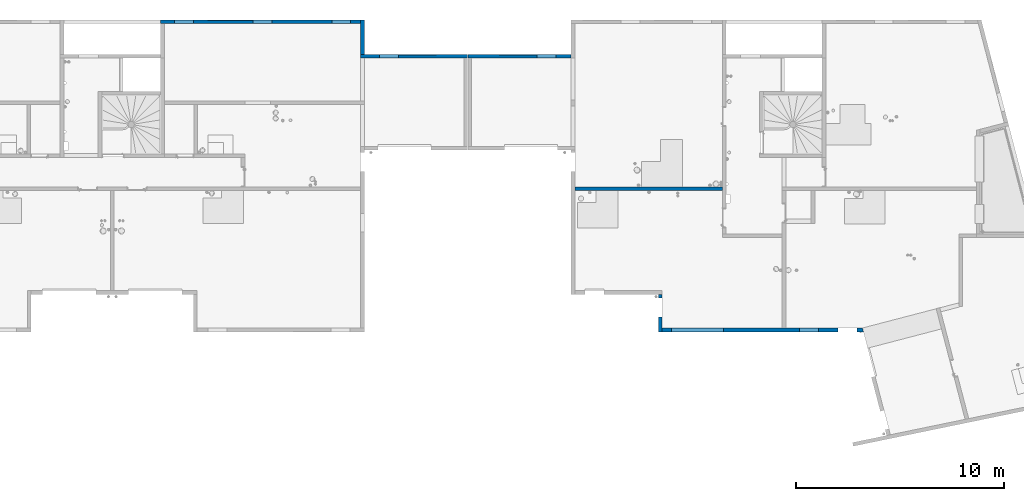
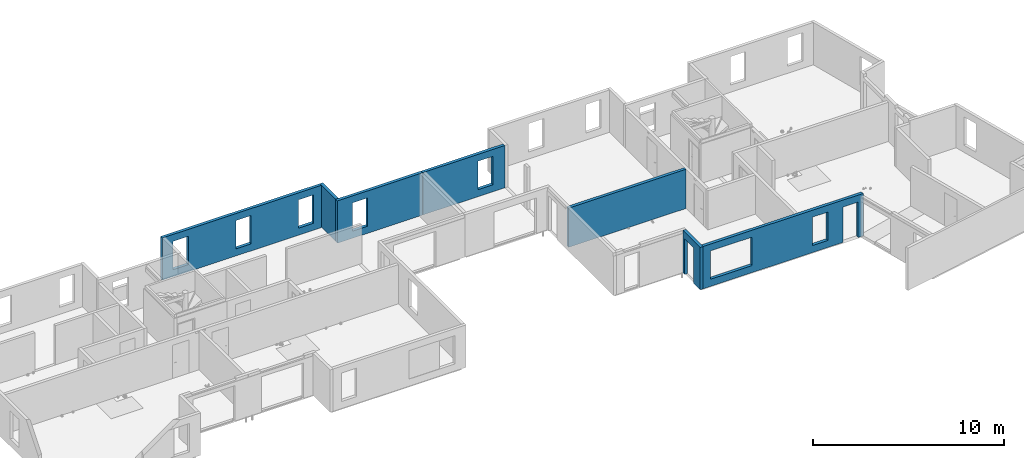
# One storey, part 13 of 30: 7 walls, 14 openings.
"""IFC2X3 building model written with IfcOpenShell, lengths in centimetres."""

from ifc_helpers import new_model, entity, si_unit, converted_unit, derived_unit, direction, frame, frame_2d, origin, place, context, subcontext, project, spatial, polyline, rectangle, outline, extrude, material, layer, layer_set, layer_usage, type_object, element, save


model = new_model("IFC2X3")

# Units and contexts
model_context = context("Model", 3, precision=0.001, world=origin(), true_north=direction((6.12303176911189e-17, 1.0)))
body_context = subcontext(model_context, "Body", "Model", "MODEL_VIEW")
ifc_project = project(units=[si_unit("LENGTHUNIT", "METRE", prefix="CENTI"), si_unit("AREAUNIT", "SQUARE_METRE"), si_unit("VOLUMEUNIT", "CUBIC_METRE"), converted_unit("PLANEANGLEUNIT", "DEGREE", entity("IfcRatioMeasure", 0.0174532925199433), si_unit("PLANEANGLEUNIT", "RADIAN"), dimensions=[0, 0, 0, 0, 0, 0, 0]), si_unit("MASSUNIT", "GRAM", prefix="KILO"), derived_unit("MASSDENSITYUNIT", [(si_unit("MASSUNIT", "GRAM", prefix="KILO"), 1), (si_unit("LENGTHUNIT", "METRE"), -3)]), si_unit("TIMEUNIT", "SECOND"), si_unit("FREQUENCYUNIT", "HERTZ"), si_unit("THERMODYNAMICTEMPERATUREUNIT", "DEGREE_CELSIUS"), derived_unit("THERMALTRANSMITTANCEUNIT", [(si_unit("MASSUNIT", "GRAM", prefix="KILO"), 1), (si_unit("THERMODYNAMICTEMPERATUREUNIT", "KELVIN"), -1), (si_unit("TIMEUNIT", "SECOND"), -3)]), derived_unit("VOLUMETRICFLOWRATEUNIT", [(si_unit("LENGTHUNIT", "METRE"), 3), (si_unit("TIMEUNIT", "SECOND"), -1)]), si_unit("ELECTRICCURRENTUNIT", "AMPERE"), si_unit("ELECTRICVOLTAGEUNIT", "VOLT"), si_unit("POWERUNIT", "WATT"), si_unit("FORCEUNIT", "NEWTON"), si_unit("ILLUMINANCEUNIT", "LUX"), si_unit("LUMINOUSFLUXUNIT", "LUMEN"), si_unit("LUMINOUSINTENSITYUNIT", "CANDELA"), derived_unit("USERDEFINED", [(si_unit("MASSUNIT", "GRAM", prefix="KILO"), -1), (si_unit("LENGTHUNIT", "METRE"), -2), (si_unit("TIMEUNIT", "SECOND"), 3), (si_unit("LUMINOUSFLUXUNIT", "LUMEN"), 1)]), derived_unit("LINEARVELOCITYUNIT", [(si_unit("LENGTHUNIT", "METRE"), 1), (si_unit("TIMEUNIT", "SECOND"), -1)]), si_unit("PRESSUREUNIT", "PASCAL"), derived_unit("USERDEFINED", [(si_unit("LENGTHUNIT", "METRE"), -2), (si_unit("MASSUNIT", "GRAM", prefix="KILO"), 1), (si_unit("TIMEUNIT", "SECOND"), -2)])], contexts=[model_context])

# Site, building, storey
site_placement = place(None, origin())
site = spatial("IfcSite", under=ifc_project, at=site_placement, Name="Default", CompositionType="ELEMENT")
building_placement = place(site_placement, origin())
building = spatial("IfcBuilding", under=site, at=building_placement, Name="CAGE 03", CompositionType="ELEMENT")
storey_placement = place(building_placement, frame((0.0, 0.0, 610.0)))
storey = spatial("IfcBuildingStorey", under=building, at=storey_placement, Name="R+2", CompositionType="ELEMENT", Elevation=610.0)

# Wall, openings
ifc_material = material(Name="Béton, C25/30")
ifc_layer = layer(ifc_material, 18.0)
ifc_layer_set = layer_set([ifc_layer], Name="Mur de base:Voile BA 18")
ifc_layer_usage_1 = layer_usage(ifc_layer_set, "AXIS2", "POSITIVE", -9.0)
wall_type = type_object("IfcWallType", Name="Mur de base:Voile BA 18", PredefinedType="STANDARD", material=ifc_layer_set)
wall_1_placement = place(storey_placement, frame((9712.36582014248, 3976.66066607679, 0.0), z_axis=(0.0, 0.0, 1.0), x_axis=(0.0, -1.0, 0.0)))
wall_1 = element("IfcWallStandardCase", 1, at=wall_1_placement, inside=storey, type_object=wall_type, material=ifc_layer_usage_1, Name="Mur de base:Voile BA 18", ObjectType="Mur de base:Voile BA 18", context=body_context, shape_type="SweptSolid", body=[
    extrude(rectangle(XDim=179.999999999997, YDim=17.9999999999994, at=frame_2d((89.9999999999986, -3.91686683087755e-13), x_axis=(-1.0, 0.0))), origin(), (0.0, 0.0, 1.0), 270.0),
])
opening_1_placement = place(wall_1_placement, origin())
element("IfcOpeningElement", 2, at=opening_1_placement, cuts=wall_1, Name="Mur de base:Voile BA 18", ObjectType="Opening", context=body_context, shape_type="SweptSolid", body=[
    extrude(rectangle(XDim=226.0, YDim=91.0000000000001, at=frame_2d((0.0, -1.13686837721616e-13), x_axis=(0.0, 1.0))), frame((64.4999999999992, -143.4, 383.0), z_axis=(0.0, 1.0, 0.0), x_axis=(-1.0, 0.0, 0.0)), (0.0, 0.0, 1.0), 304.8),
])
opening_2_placement = place(wall_1_placement, frame((3976.66066607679, -9712.36582014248, 0.0), z_axis=(0.0, 0.0, 1.0), x_axis=(0.0, 1.0, 0.0)))
element("IfcOpeningElement", 3, at=opening_2_placement, cuts=wall_1, Name="Mur de base:Voile BA 18", ObjectType="Opening", context=body_context, shape_type="SweptSolid", body=[
    extrude(rectangle(XDim=226.0, YDim=91.0000000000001, at=frame_2d((0.0, -5.6843418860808e-14), x_axis=(0.0, 1.0))), frame((9568.96582014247, 3912.16066607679, 113.0), z_axis=(1.0, 0.0, 0.0), x_axis=(0.0, 1.0, 0.0)), (0.0, 0.0, 1.0), 304.8),
])

ifc_layer_usage_2 = layer_usage(ifc_layer_set, "AXIS2", "POSITIVE", -9.0)
wall_2_placement = place(storey_placement, frame((9721.36582014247, 3805.66066607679, 0.0)))
wall_2 = element("IfcWallStandardCase", 4, at=wall_2_placement, inside=storey, type_object=wall_type, material=ifc_layer_usage_2, Name="Mur de base:Voile BA 18", ObjectType="Mur de base:Voile BA 18", context=body_context, shape_type="SweptSolid", body=[
    extrude(outline(polyline([(0.0, -9.0), (844.0, -9.0), (935.0, -9.0), (948.259414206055, -9.0), (950.32649087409, -9.0), (966.863104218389, -9.0), (965.180291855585, -2.55624871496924), (962.162329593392, 9.0), (935.0, 9.0), (844.0, 9.0), (0.0, 9.0), (0.0, -9.0)])), origin(), (0.0, 0.0, 1.0), 270.0),
])
opening_3_placement = place(wall_2_placement, origin())
element("IfcOpeningElement", 5, at=opening_3_placement, cuts=wall_2, Name="Mur de base:Voile BA 18", ObjectType="Opening", context=body_context, shape_type="SweptSolid", body=[
    extrude(rectangle(XDim=226.0, YDim=90.9999999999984, at=frame_2d((8.66862137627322e-13, -1.13686837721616e-13), x_axis=(0.0, 1.0))), frame((889.500000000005, -161.400000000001, 383.0), z_axis=(0.0, 1.0, 0.0), x_axis=(-1.0, 0.0, 0.0)), (0.0, 0.0, 1.0), 304.8),
])
opening_4_placement = place(wall_2_placement, frame((-9721.36582014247, -3805.66066607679, 0.0)))
element("IfcOpeningElement", 6, at=opening_4_placement, cuts=wall_2, Name="Mur de base:Voile BA 18", ObjectType="Opening", context=body_context, shape_type="SweptSolid", body=[
    extrude(rectangle(XDim=226.0, YDim=90.9999999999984, at=frame_2d((8.66862137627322e-13, -5.6843418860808e-14), x_axis=(0.0, 1.0))), frame((10610.8658201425, 3644.26066607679, 113.0), z_axis=(0.0, 1.0, 0.0), x_axis=(-1.0, 0.0, 0.0)), (0.0, 0.0, 1.0), 304.8),
])
opening_5_placement = place(wall_2_placement, frame((-9721.36582014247, -3805.66066607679, 0.0)))
element("IfcOpeningElement", 7, at=opening_5_placement, cuts=wall_2, Name="Mur de base:Voile BA 18", ObjectType="Opening", context=body_context, shape_type="SweptSolid", body=[
    extrude(rectangle(XDim=181.0, YDim=90.9999999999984, at=frame_2d((-8.66862137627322e-13, 0.0), x_axis=(0.0, 1.0))), frame((10427.8658201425, 3644.26066607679, 135.5), z_axis=(0.0, 1.0, 0.0), x_axis=(-1.0, 0.0, 0.0)), (0.0, 0.0, 1.0), 304.799999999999),
])
opening_6_placement = place(wall_2_placement, frame((-9721.36582014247, -3805.66066607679, 0.0)))
element("IfcOpeningElement", 8, at=opening_6_placement, cuts=wall_2, Name="Mur de base:Voile BA 18", ObjectType="Opening", context=body_context, shape_type="SweptSolid", body=[
    extrude(rectangle(XDim=181.0, YDim=251.0, at=frame_2d((8.66862137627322e-13, 0.0), x_axis=(0.0, 1.0))), frame((9891.86582014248, 3644.26066607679, 135.5), z_axis=(0.0, 1.0, 0.0), x_axis=(-1.0, 0.0, 0.0)), (0.0, 0.0, 1.0), 304.8),
])

ifc_layer_usage_3 = layer_usage(ifc_layer_set, "AXIS2", "POSITIVE", -9.0)
wall_3_placement = place(storey_placement, frame((9284.36582014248, 5119.66066607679, 0.0), z_axis=(0.0, 0.0, 1.0), x_axis=(-1.0, 0.0, 0.0)))
wall_3 = element("IfcWallStandardCase", 9, at=wall_3_placement, inside=storey, type_object=wall_type, material=ifc_layer_usage_3, Name="Mur de base:Voile BA 18", ObjectType="Mur de base:Voile BA 18", context=body_context, shape_type="SweptSolid", body=[
    extrude(rectangle(XDim=495.000000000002, YDim=17.9999999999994, at=frame_2d((247.500000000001, -3.28626015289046e-14), x_axis=(-1.0, 0.0))), origin(), (0.0, 0.0, 1.0), 270.0),
])
opening_7_placement = place(wall_3_placement, origin())
element("IfcOpeningElement", 10, at=opening_7_placement, cuts=wall_3, Name="Mur de base:Voile BA 18", ObjectType="Recess", context=body_context, shape_type="SweptSolid", body=[
    extrude(rectangle(XDim=181.0, YDim=184.0, at=frame_2d((0.0, -5.6843418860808e-14), x_axis=(0.0, 1.0))), frame((255.0, -9.0, 135.5), z_axis=(0.0, 1.0, 0.0), x_axis=(1.0, 0.0, 0.0)), (0.0, 0.0, 1.0), 1.99999999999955),
])
opening_8_placement = place(wall_3_placement, frame((9284.36582014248, 5119.66066607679, 0.0), z_axis=(0.0, 0.0, 1.0), x_axis=(-1.0, 0.0, 0.0)))
element("IfcOpeningElement", 11, at=opening_8_placement, cuts=wall_3, Name="Mur de base:Voile BA 18", ObjectType="Opening", context=body_context, shape_type="SweptSolid", body=[
    extrude(rectangle(XDim=181.0, YDim=91.0000000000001, at=frame_2d((0.0, 0.0), x_axis=(0.0, 1.0))), frame((9166.86582014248, 5263.06066607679, 135.5), z_axis=(0.0, -1.0, 0.0), x_axis=(1.0, 0.0, 0.0)), (0.0, 0.0, 1.0), 304.8),
])

# Wall
ifc_layer_usage_4 = layer_usage(ifc_layer_set, "AXIS2", "POSITIVE", -9.0)
wall_4_placement = place(storey_placement, frame((8283.36582014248, 5128.6606660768, 0.0), z_axis=(0.0, 0.0, 1.0), x_axis=(0.0, 1.0, 0.0)))
element("IfcWallStandardCase", 12, at=wall_4_placement, inside=storey, type_object=wall_type, material=ifc_layer_usage_4, Name="Mur de base:Voile BA 18", ObjectType="Mur de base:Voile BA 18", context=body_context, shape_type="SweptSolid", body=[
    extrude(rectangle(XDim=165.0, YDim=17.9999999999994, at=frame_2d((82.4999999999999, 0.0), x_axis=(-1.0, 0.0))), origin(), (0.0, 0.0, 1.0), 270.0),
])

# Wall, openings
ifc_layer_usage_5 = layer_usage(ifc_layer_set, "AXIS2", "POSITIVE", -9.0)
wall_5_placement = place(storey_placement, frame((8274.36582014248, 5284.6606660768, 0.0), z_axis=(0.0, 0.0, 1.0), x_axis=(-1.0, 0.0, 0.0)))
wall_5 = element("IfcWallStandardCase", 13, at=wall_5_placement, inside=storey, type_object=wall_type, material=ifc_layer_usage_5, Name="Mur de base:Voile BA 18", ObjectType="Mur de base:Voile BA 18", context=body_context, shape_type="SweptSolid", body=[
    extrude(rectangle(XDim=960.999999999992, YDim=17.9999999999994, at=frame_2d((480.499999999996, -2.44249065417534e-13), x_axis=(-1.0, 0.0))), origin(), (0.0, 0.0, 1.0), 270.0),
])
opening_9_placement = place(wall_5_placement, origin())
element("IfcOpeningElement", 14, at=opening_9_placement, cuts=wall_5, Name="Mur de base:Voile BA 18", ObjectType="Recess", context=body_context, shape_type="SweptSolid", body=[
    extrude(rectangle(XDim=181.0, YDim=218.0, at=frame_2d((4.33431068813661e-13, 0.0), x_axis=(0.0, 1.0))), frame((626.0, -9.0, 135.5), z_axis=(0.0, 1.0, 0.0), x_axis=(1.0, 0.0, 0.0)), (0.0, 0.0, 1.0), 1.99999999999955),
])
opening_10_placement = place(wall_5_placement, frame((8274.36582014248, 5284.6606660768, 0.0), z_axis=(0.0, 0.0, 1.0), x_axis=(-1.0, 0.0, 0.0)))
element("IfcOpeningElement", 15, at=opening_10_placement, cuts=wall_5, Name="Mur de base:Voile BA 18", ObjectType="Opening", context=body_context, shape_type="SweptSolid", body=[
    extrude(rectangle(XDim=181.0, YDim=91.0000000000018, at=frame_2d((0.0, 0.0), x_axis=(0.0, 1.0))), frame((7802.86582014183, 5428.0606660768, 135.5), z_axis=(0.0, -1.0, 0.0), x_axis=(1.0, 0.0, 0.0)), (0.0, 0.0, 1.0), 304.8),
])
opening_11_placement = place(wall_5_placement, frame((8274.36582014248, 5284.6606660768, 0.0), z_axis=(0.0, 0.0, 1.0), x_axis=(-1.0, 0.0, 0.0)))
element("IfcOpeningElement", 16, at=opening_11_placement, cuts=wall_5, Name="Mur de base:Voile BA 18", ObjectType="Opening", context=body_context, shape_type="SweptSolid", body=[
    extrude(rectangle(XDim=181.0, YDim=91.0000000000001, at=frame_2d((0.0, 0.0), x_axis=(0.0, 1.0))), frame((7424.86582014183, 5428.0606660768, 135.5), z_axis=(0.0, -1.0, 0.0), x_axis=(1.0, 0.0, 0.0)), (0.0, 0.0, 1.0), 304.8),
])
opening_12_placement = place(wall_5_placement, frame((8274.36582014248, 5284.6606660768, 0.0), z_axis=(0.0, 0.0, 1.0), x_axis=(-1.0, 0.0, 0.0)))
element("IfcOpeningElement", 17, at=opening_12_placement, cuts=wall_5, Name="Mur de base:Voile BA 18", ObjectType="Opening", context=body_context, shape_type="SweptSolid", body=[
    extrude(rectangle(XDim=181.0, YDim=90.9999999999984, at=frame_2d((8.66862137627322e-13, 0.0), x_axis=(0.0, 1.0))), frame((8180.86582014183, 5428.0606660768, 135.5), z_axis=(0.0, -1.0, 0.0), x_axis=(1.0, 0.0, 0.0)), (0.0, 0.0, 1.0), 304.8),
])

# Wall
ifc_layer_usage_6 = layer_usage(ifc_layer_set, "AXIS2", "NEGATIVE", 9.0)
wall_6_placement = place(storey_placement, frame((9302.36582014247, 4483.66066607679, 0.0)))
element("IfcWallStandardCase", 18, at=wall_6_placement, inside=storey, type_object=wall_type, material=ifc_layer_usage_6, Name="Mur de base:Voile BA 18", ObjectType="Mur de base:Voile BA 18", context=body_context, shape_type="SweptSolid", body=[
    extrude(rectangle(XDim=708.000000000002, YDim=17.9999999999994, at=frame_2d((354.000000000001, 2.1405099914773e-13), x_axis=(-1.0, 0.0))), origin(), (0.0, 0.0, 1.0), 250.0),
])

# Wall, openings
ifc_layer_usage_7 = layer_usage(ifc_layer_set, "AXIS2", "POSITIVE", -9.0)
wall_7_placement = place(storey_placement, frame((8787.36582014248, 5119.6606660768, 0.0), z_axis=(0.0, 0.0, 1.0), x_axis=(-1.0, 0.0, 0.0)))
wall_7 = element("IfcWallStandardCase", 19, at=wall_7_placement, inside=storey, type_object=wall_type, material=ifc_layer_usage_7, Name="Mur de base:Voile BA 18", ObjectType="Mur de base:Voile BA 18", context=body_context, shape_type="SweptSolid", body=[
    extrude(rectangle(XDim=513.000000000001, YDim=17.9999999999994, at=frame_2d((256.500000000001, 2.66453525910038e-15), x_axis=(-1.0, 0.0))), origin(), (0.0, 0.0, 1.0), 270.0),
])
opening_13_placement = place(wall_7_placement, origin())
element("IfcOpeningElement", 20, at=opening_13_placement, cuts=wall_7, Name="Mur de base:Voile BA 18", ObjectType="Recess", context=body_context, shape_type="SweptSolid", body=[
    extrude(rectangle(XDim=181.0, YDim=184.0, at=frame_2d((0.0, -5.6843418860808e-14), x_axis=(0.0, 1.0))), frame((240.0, -9.0, 135.5), z_axis=(0.0, 1.0, 0.0), x_axis=(1.0, 0.0, 0.0)), (0.0, 0.0, 1.0), 1.99999999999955),
])
opening_14_placement = place(wall_7_placement, frame((8787.36582014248, 5119.6606660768, 0.0), z_axis=(0.0, 0.0, 1.0), x_axis=(-1.0, 0.0, 0.0)))
element("IfcOpeningElement", 21, at=opening_14_placement, cuts=wall_7, Name="Mur de base:Voile BA 18", ObjectType="Opening", context=body_context, shape_type="SweptSolid", body=[
    extrude(rectangle(XDim=181.0, YDim=91.0000000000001, at=frame_2d((0.0, 0.0), x_axis=(0.0, 1.0))), frame((8409.86582014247, 5263.0606660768, 135.5), z_axis=(0.0, -1.0, 0.0), x_axis=(1.0, 0.0, 0.0)), (0.0, 0.0, 1.0), 304.8),
])

save(model, "model.ifc")
